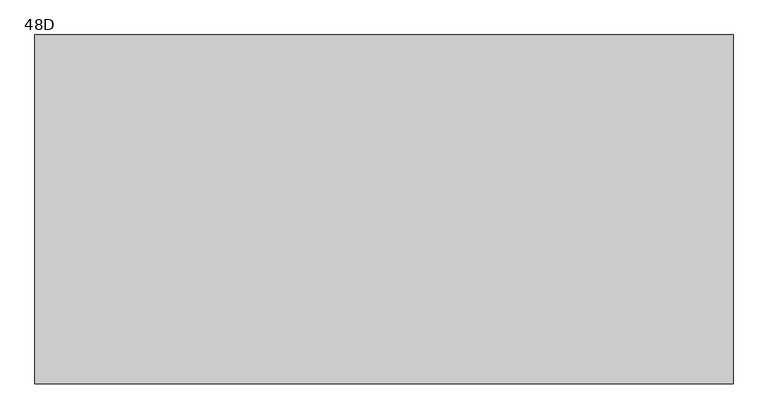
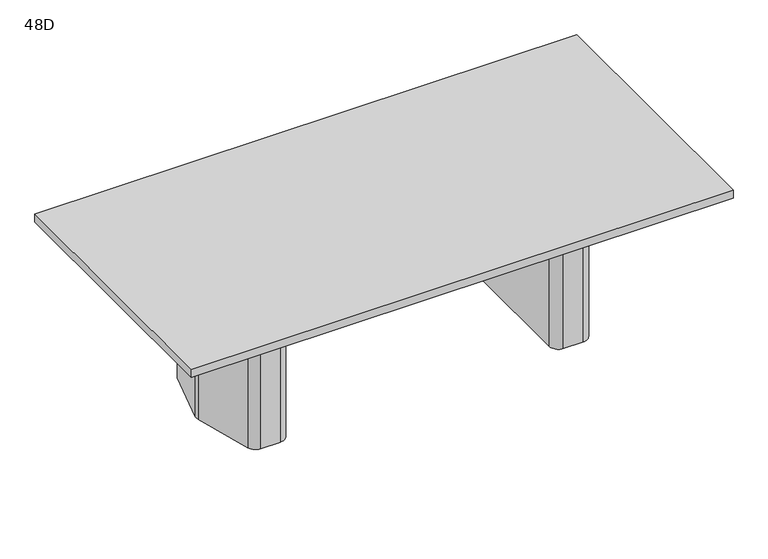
"""IFC4 building model written with IfcOpenShell, lengths in millimetres: furniture geometry, Coalesse_AM_Table_Conference_ETable2_Rectangular_96in_TwoBase : 48D."""

from ifc_helpers import new_model, si_unit, frame, origin, place, context, project, spatial, polyline, circle_curve, outline, extrude, source, transform, mapped, element, save
from ifc_brep_helpers import plane_surface, cylinder_surface, revolved_surface, advanced_brep


def furniture_48d_d70740bd(model_context):
    return source(origin(), model_context, "Body", "SolidModel", [
        advanced_brep(
        [(760.624548, 274.2093613, 698.5), (720.7579246, 304.8, 698.5), (631.825, 304.8, 698.5), (590.55, 263.525, 698.5), (590.55, -263.525, 698.5), (631.825, -304.8, 698.5), (720.7579246, -304.8, 698.5), (760.624548, -274.2093613, 698.5), (831.2503901, -10.6333708, 698.5), (831.2503901, 10.6333708, 698.5), (628.65, -206.375, 698.5), (628.65, 206.375, 698.5), (654.05, 231.775, 698.5), (713.0608422, 231.775, 698.5), (737.595338, 212.9490792, 698.5), (776.2875, 68.54974, 698.5), (776.2875, -68.54974, 698.5), (737.595338, -212.9490792, 698.5), (713.0608422, -231.775, 698.5), (654.05, -231.775, 698.5), (760.624548, 274.2093613, 3.175), (831.2503901, 10.6333708, 3.175), (831.2503901, -10.6333708, 3.175), (760.624548, -274.2093613, 3.175), (720.7579246, -304.8, 3.175), (631.825, -304.8, 3.175), (590.55, -263.525, 3.175), (590.55, 263.525, 3.175), (631.825, 304.8, 3.175), (720.7579246, 304.8, 3.175), (749.8625859, 216.2361187, 3.175), (713.0608422, 244.475, 3.175), (654.05, 244.475, 3.175), (615.95, 206.375, 3.175), (615.95, -206.375, 3.175), (654.05, -244.475, 3.175), (713.0608422, -244.475, 3.175), (749.8625859, -216.2361187, 3.175), (788.9875, -70.2217466, 3.175), (788.9875, 70.2217466, 3.175), (654.05, -231.775, 3.175), (628.65, -206.375, 3.175), (713.0608422, -231.775, 3.175), (737.595338, -212.9490792, 3.175), (776.2875, -68.54974, 3.175), (776.2875, 68.54974, 3.175), (737.595338, 212.9490792, 3.175), (713.0608422, 231.775, 3.175), (654.05, 231.775, 3.175), (628.65, 206.375, 3.175), (749.8625859, 216.2361187, 0.0), (788.9875, 70.2217466, 0.0), (788.9875, -70.2217466, 0.0), (749.8625859, -216.2361187, 0.0), (713.0608422, -244.475, 0.0), (654.05, -244.475, 0.0), (615.95, -206.375, 0.0), (615.95, 206.375, 0.0), (654.05, 244.475, 0.0), (713.0608422, 244.475, 0.0)],
        [
            (0, 1, circle_curve(frame((720.7579246, 263.5270004, 698.5), z_axis=(0.0, 0.0, 1.0), x_axis=(-1.0, 0.0, 0.0)), 41.2729996)),
            (1, 2),
            (2, 3, circle_curve(frame((631.825, 263.525, 698.5), z_axis=(0.0, 0.0, 1.0), x_axis=(-1.0, 0.0, 0.0)), 41.275)),
            (3, 4),
            (4, 5, circle_curve(frame((631.825, -263.525, 698.5), z_axis=(0.0, 0.0, 1.0), x_axis=(-1.0, 0.0, 0.0)), 41.275)),
            (5, 6),
            (6, 7, circle_curve(frame((720.7579246, -263.5270004, 698.5), z_axis=(0.0, 0.0, 1.0), x_axis=(-1.0, 0.0, 0.0)), 41.2729996)),
            (7, 8),
            (8, 9, circle_curve(frame((791.5665979, 0.0, 698.5), z_axis=(0.0, 0.0, 1.0), x_axis=(-1.0, 0.0, 0.0)), 41.0837187)),
            (9, 0),
            (10, 11),
            (11, 12, circle_curve(frame((654.05, 206.375, 698.5), z_axis=(0.0, 0.0, -1.0), x_axis=(-1.0, 0.0, 0.0)), 25.4)),
            (12, 13),
            (13, 14, circle_curve(frame((713.0608422, 206.375, 698.5), z_axis=(0.0, 0.0, -1.0), x_axis=(-1.0, 0.0, 0.0)), 25.4)),
            (14, 15),
            (15, 16),
            (16, 17),
            (17, 18, circle_curve(frame((713.0608422, -206.375, 698.5), z_axis=(0.0, 0.0, -1.0), x_axis=(-1.0, 0.0, 0.0)), 25.4)),
            (18, 19),
            (19, 10, circle_curve(frame((654.05, -206.375, 698.5), z_axis=(0.0, 0.0, -1.0), x_axis=(-1.0, 0.0, 0.0)), 25.4)),
            (20, 21),
            (21, 22, circle_curve(frame((791.5665979, 0.0, 3.175), z_axis=(0.0, 0.0, -1.0), x_axis=(-1.0, 0.0, 0.0)), 41.0837187)),
            (22, 23),
            (23, 24, circle_curve(frame((720.7579246, -263.5270004, 3.175), z_axis=(0.0, 0.0, -1.0), x_axis=(-1.0, 0.0, 0.0)), 41.2729996)),
            (24, 25),
            (25, 26, circle_curve(frame((631.825, -263.525, 3.175), z_axis=(0.0, 0.0, -1.0), x_axis=(-1.0, 0.0, 0.0)), 41.275)),
            (26, 27),
            (27, 28, circle_curve(frame((631.825, 263.525, 3.175), z_axis=(0.0, 0.0, -1.0), x_axis=(-1.0, 0.0, 0.0)), 41.275)),
            (28, 29),
            (29, 20, circle_curve(frame((720.7579246, 263.5270004, 3.175), z_axis=(0.0, 0.0, -1.0), x_axis=(-1.0, 0.0, 0.0)), 41.2729996)),
            (30, 31, circle_curve(frame((713.0608422, 206.375, 3.175), z_axis=(0.0, 0.0, 1.0), x_axis=(-1.0, 0.0, 0.0)), 38.1)),
            (31, 32),
            (32, 33, circle_curve(frame((654.05, 206.375, 3.175), z_axis=(0.0, 0.0, 1.0), x_axis=(-1.0, 0.0, 0.0)), 38.1)),
            (33, 34),
            (34, 35, circle_curve(frame((654.05, -206.375, 3.175), z_axis=(0.0, 0.0, 1.0), x_axis=(-1.0, 0.0, 0.0)), 38.1)),
            (35, 36),
            (36, 37, circle_curve(frame((713.0608422, -206.375, 3.175), z_axis=(0.0, 0.0, 1.0), x_axis=(-1.0, 0.0, 0.0)), 38.1)),
            (37, 38),
            (38, 39),
            (39, 30),
            (9, 21),
            (20, 0),
            (8, 22),
            (7, 23),
            (6, 24),
            (5, 25),
            (4, 26),
            (3, 27),
            (2, 28),
            (1, 29),
            (19, 40),
            (40, 41, circle_curve(frame((654.05, -206.375, 3.175), z_axis=(0.0, 0.0, -1.0), x_axis=(-1.0, 0.0, 0.0)), 25.4)),
            (41, 10),
            (18, 42),
            (42, 40),
            (17, 43),
            (43, 42, circle_curve(frame((713.0608422, -206.375, 3.175), z_axis=(0.0, 0.0, -1.0), x_axis=(-1.0, 0.0, 0.0)), 25.4)),
            (16, 44),
            (44, 43),
            (15, 45),
            (45, 44),
            (14, 46),
            (46, 45),
            (13, 47),
            (47, 46, circle_curve(frame((713.0608422, 206.375, 3.175), z_axis=(0.0, 0.0, -1.0), x_axis=(-1.0, 0.0, 0.0)), 25.4)),
            (12, 48),
            (48, 47),
            (11, 49),
            (49, 48, circle_curve(frame((654.05, 206.375, 3.175), z_axis=(0.0, 0.0, -1.0), x_axis=(-1.0, 0.0, 0.0)), 25.4)),
            (41, 49),
            (50, 51),
            (51, 52),
            (52, 53),
            (53, 54, circle_curve(frame((713.0608422, -206.375, 0.0), z_axis=(0.0, 0.0, -1.0), x_axis=(-1.0, 0.0, 0.0)), 38.1)),
            (54, 55),
            (55, 56, circle_curve(frame((654.05, -206.375, 0.0), z_axis=(0.0, 0.0, -1.0), x_axis=(-1.0, 0.0, 0.0)), 38.1)),
            (56, 57),
            (57, 58, circle_curve(frame((654.05, 206.375, 0.0), z_axis=(0.0, 0.0, -1.0), x_axis=(-1.0, 0.0, 0.0)), 38.1)),
            (58, 59),
            (59, 50, circle_curve(frame((713.0608422, 206.375, 0.0), z_axis=(0.0, 0.0, -1.0), x_axis=(-1.0, 0.0, 0.0)), 38.1)),
            (50, 30),
            (39, 51),
            (38, 52),
            (37, 53),
            (36, 54),
            (35, 55),
            (34, 56),
            (33, 57),
            (32, 58),
            (31, 59),
        ],
        [
            plane_surface(frame((831.2374275, 10.6817473, 698.5), z_axis=(0.0, 0.0, 1.0000000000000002), x_axis=(0.25882201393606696, -0.9659250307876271, 0.0))),
            plane_surface(frame((831.2374275, 10.6817473, 3.175), z_axis=(0.0, 0.0, -1.0000000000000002), x_axis=(-0.25882201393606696, 0.9659250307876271, 0.0))),
            plane_surface(frame((760.624548, 274.2093613, 698.5), z_axis=(0.9659250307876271, 0.25882201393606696, 0.0), x_axis=(0.0, 0.0, -1.0))),
            cylinder_surface(frame((791.5665979, 0.0, 3.175), z_axis=(0.0, 0.0, 1.0), x_axis=(-1.0, 0.0, 0.0)), 41.0837187),
            plane_surface(frame((831.2503901, -10.6333708, 698.5), z_axis=(0.9659250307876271, -0.2588220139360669, 0.0), x_axis=(0.0, 0.0, -1.0))),
            cylinder_surface(frame((720.7579246, -263.5270004, 3.175), z_axis=(0.0, 0.0, 1.0), x_axis=(-1.0, 0.0, 0.0)), 41.2729996),
            plane_surface(frame((720.7579246, -304.8, 698.5), z_axis=(0.0, -1.0, 0.0), x_axis=(0.0, 0.0, -1.0))),
            cylinder_surface(frame((631.825, -263.525, 3.175), z_axis=(0.0, 0.0, 1.0), x_axis=(-1.0, 0.0, 0.0)), 41.275),
            plane_surface(frame((590.55, -263.525, 698.5), z_axis=(-1.0, 0.0, 0.0), x_axis=(0.0, 0.0, -1.0))),
            cylinder_surface(frame((631.825, 263.525, 3.175), z_axis=(0.0, 0.0, 1.0), x_axis=(-1.0, 0.0, 0.0)), 41.275),
            plane_surface(frame((631.825, 304.8, 698.5), z_axis=(0.0, 1.0, 0.0), x_axis=(0.0, 0.0, -1.0))),
            cylinder_surface(frame((720.7579246, 263.5270004, 3.175), z_axis=(0.0, 0.0, 1.0), x_axis=(-1.0, 0.0, 0.0)), 41.2729996),
            revolved_surface(polyline([(628.65, -206.375, 3.175), (628.65, -206.375, 698.5)]), (654.05, -206.375, 0.0), (0.0, 0.0, -1.0)),
            plane_surface(frame((654.05, -231.775, 698.5), z_axis=(0.0, 1.0, 0.0), x_axis=(0.0, 0.0, -1.0))),
            revolved_surface(polyline([(687.6608422, -206.375, 3.175), (687.6608422, -206.375, 698.5)]), (713.0608422, -206.375, 0.0), (0.0, 0.0, -1.0)),
            plane_surface(frame((737.595338, -212.9490792, 698.5), z_axis=(-0.9659250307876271, 0.2588220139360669, 0.0), x_axis=(0.0, 0.0, -1.0))),
            plane_surface(frame((776.2875, -68.54974, 698.5), z_axis=(-1.0, 0.0, 0.0), x_axis=(0.0, 0.0, -1.0))),
            plane_surface(frame((776.2875, 68.54974, 698.5), z_axis=(-0.9659250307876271, -0.25882201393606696, 0.0), x_axis=(0.0, 0.0, -1.0))),
            revolved_surface(polyline([(687.6608422, 206.375, 3.175), (687.6608422, 206.375, 698.5)]), (713.0608422, 206.375, 0.0), (0.0, 0.0, -1.0)),
            plane_surface(frame((713.0608422, 231.775, 698.5), z_axis=(0.0, -1.0, 0.0), x_axis=(0.0, 0.0, -1.0))),
            revolved_surface(polyline([(628.65, 206.375, 3.175), (628.65, 206.375, 698.5)]), (654.05, 206.375, 0.0), (0.0, 0.0, -1.0)),
            plane_surface(frame((628.65, 206.375, 698.5), z_axis=(1.0, 0.0, 0.0), x_axis=(0.0, 0.0, -1.0))),
            plane_surface(frame((788.5547479, 71.8367796, 3.175), z_axis=(0.0, 0.0, 1.0), x_axis=(0.25882201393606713, -0.965925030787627, 0.0))),
            plane_surface(frame((788.5547479, 71.8367796, 0.0), z_axis=(0.0, 0.0, -1.0), x_axis=(-0.25882201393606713, 0.965925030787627, 0.0))),
            plane_surface(frame((749.8625859, 216.2361187, 3.175), z_axis=(0.965925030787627, 0.25882201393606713, 0.0), x_axis=(0.0, 0.0, -1.0))),
            plane_surface(frame((788.9875, 70.2217466, 3.175), z_axis=(1.0, 0.0, 0.0), x_axis=(0.0, 0.0, -1.0))),
            plane_surface(frame((788.9875, -70.2217466, 3.175), z_axis=(0.9659250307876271, -0.2588220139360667, 0.0), x_axis=(0.0, 0.0, -1.0))),
            cylinder_surface(frame((713.0608422, -206.375, 0.0), z_axis=(0.0, 0.0, 1.0), x_axis=(-1.0, 0.0, 0.0)), 38.1),
            plane_surface(frame((713.0608422, -244.475, 3.175), z_axis=(0.0, -1.0, 0.0), x_axis=(0.0, 0.0, -1.0))),
            cylinder_surface(frame((654.05, -206.375, 0.0), z_axis=(0.0, 0.0, 1.0), x_axis=(-1.0, 0.0, 0.0)), 38.1),
            plane_surface(frame((615.95, -206.375, 3.175), z_axis=(-1.0, 0.0, 0.0), x_axis=(0.0, 0.0, -1.0))),
            cylinder_surface(frame((654.05, 206.375, 0.0), z_axis=(0.0, 0.0, 1.0), x_axis=(-1.0, 0.0, 0.0)), 38.1),
            plane_surface(frame((654.05, 244.475, 3.175), z_axis=(0.0, 1.0, 0.0), x_axis=(0.0, 0.0, -1.0))),
            cylinder_surface(frame((713.0608422, 206.375, 0.0), z_axis=(0.0, 0.0, 1.0), x_axis=(-1.0, 0.0, 0.0)), 38.1),
        ],
        [
            (0, [[1, 2, 3, 4, 5, 6, 7, 8, 9, 10], [11, 12, 13, 14, 15, 16, 17, 18, 19, 20]]),
            (1, [[21, 22, 23, 24, 25, 26, 27, 28, 29, 30], [31, 32, 33, 34, 35, 36, 37, 38, 39, 40]]),
            (2, [[41, -21, 42, -10]]),
            (3, [[43, -22, -41, -9]]),
            (4, [[44, -23, -43, -8]]),
            (5, [[45, -24, -44, -7]]),
            (6, [[46, -25, -45, -6]]),
            (7, [[47, -26, -46, -5]]),
            (8, [[48, -27, -47, -4]]),
            (9, [[49, -28, -48, -3]]),
            (10, [[50, -29, -49, -2]]),
            (11, [[-42, -30, -50, -1]]),
            (12, [[51, 52, 53, -20]]),
            (13, [[54, 55, -51, -19]]),
            (14, [[56, 57, -54, -18]]),
            (15, [[58, 59, -56, -17]]),
            (16, [[60, 61, -58, -16]]),
            (17, [[62, 63, -60, -15]]),
            (18, [[64, 65, -62, -14]]),
            (19, [[66, 67, -64, -13]]),
            (20, [[68, 69, -66, -12]]),
            (21, [[-53, 70, -68, -11]]),
            (22, [[-55, -57, -59, -61, -63, -65, -67, -69, -70, -52]]),
            (23, [[71, 72, 73, 74, 75, 76, 77, 78, 79, 80]]),
            (24, [[81, -40, 82, -71]]),
            (25, [[-82, -39, 83, -72]]),
            (26, [[-83, -38, 84, -73]]),
            (27, [[-84, -37, 85, -74]]),
            (28, [[-85, -36, 86, -75]]),
            (29, [[-86, -35, 87, -76]]),
            (30, [[-87, -34, 88, -77]]),
            (31, [[-88, -33, 89, -78]]),
            (32, [[-89, -32, 90, -79]]),
            (33, [[-90, -31, -81, -80]]),
        ],
    ),
        advanced_brep(
        [(-771.737048, 274.2093613, 698.5), (-842.3628901, 10.6333708, 698.5), (-842.3628901, -10.6333708, 698.5), (-771.737048, -274.2093613, 698.5), (-731.8704246, -304.8, 698.5), (-642.9375, -304.8, 698.5), (-601.6625, -263.525, 698.5), (-601.6625, 263.525, 698.5), (-642.9375, 304.8, 698.5), (-731.8704246, 304.8, 698.5), (-639.7625, -206.375, 698.5), (-665.1625, -231.775, 698.5), (-724.1733422, -231.775, 698.5), (-748.707838, -212.9490792, 698.5), (-787.4, -68.54974, 698.5), (-787.4, 68.54974, 698.5), (-748.707838, 212.9490792, 698.5), (-724.1733422, 231.775, 698.5), (-665.1625, 231.775, 698.5), (-639.7625, 206.375, 698.5), (-771.737048, 274.2093613, 3.175), (-731.8704246, 304.8, 3.175), (-642.9375, 304.8, 3.175), (-601.6625, 263.525, 3.175), (-601.6625, -263.525, 3.175), (-642.9375, -304.8, 3.175), (-731.8704246, -304.8, 3.175), (-771.737048, -274.2093613, 3.175), (-842.3628901, -10.6333708, 3.175), (-842.3628901, 10.6333708, 3.175), (-760.9750859, 216.2361187, 3.175), (-800.1, 70.2217466, 3.175), (-800.1, -70.2217466, 3.175), (-760.9750859, -216.2361187, 3.175), (-724.1733422, -244.475, 3.175), (-665.1625, -244.475, 3.175), (-627.0625, -206.375, 3.175), (-627.0625, 206.375, 3.175), (-665.1625, 244.475, 3.175), (-724.1733422, 244.475, 3.175), (-639.7625, -206.375, 3.175), (-665.1625, -231.775, 3.175), (-724.1733422, -231.775, 3.175), (-748.707838, -212.9490792, 3.175), (-787.4, -68.54974, 3.175), (-787.4, 68.54974, 3.175), (-748.707838, 212.9490792, 3.175), (-724.1733422, 231.775, 3.175), (-665.1625, 231.775, 3.175), (-639.7625, 206.375, 3.175), (-760.9750859, 216.2361187, 0.0), (-724.1733422, 244.475, 0.0), (-665.1625, 244.475, 0.0), (-627.0625, 206.375, 0.0), (-627.0625, -206.375, 0.0), (-665.1625, -244.475, 0.0), (-724.1733422, -244.475, 0.0), (-760.9750859, -216.2361187, 0.0), (-800.1, -70.2217466, 0.0), (-800.1, 70.2217466, 0.0)],
        [
            (0, 1),
            (1, 2, circle_curve(frame((-802.6790979, 0.0, 698.5), z_axis=(0.0, 0.0, 1.0), x_axis=(1.0, 0.0, 0.0)), 41.0837187)),
            (2, 3),
            (3, 4, circle_curve(frame((-731.8704246, -263.5270004, 698.5), z_axis=(0.0, 0.0, 1.0), x_axis=(1.0, 0.0, 0.0)), 41.2729996)),
            (4, 5),
            (5, 6, circle_curve(frame((-642.9375, -263.525, 698.5), z_axis=(0.0, 0.0, 1.0), x_axis=(1.0, 0.0, 0.0)), 41.275)),
            (6, 7),
            (7, 8, circle_curve(frame((-642.9375, 263.525, 698.5), z_axis=(0.0, 0.0, 1.0), x_axis=(1.0, 0.0, 0.0)), 41.275)),
            (8, 9),
            (9, 0, circle_curve(frame((-731.8704246, 263.5270004, 698.5), z_axis=(0.0, 0.0, 1.0), x_axis=(1.0, 0.0, 0.0)), 41.2729996)),
            (10, 11, circle_curve(frame((-665.1625, -206.375, 698.5), z_axis=(0.0, 0.0, -1.0), x_axis=(1.0, 0.0, 0.0)), 25.4)),
            (11, 12),
            (12, 13, circle_curve(frame((-724.1733422, -206.375, 698.5), z_axis=(0.0, 0.0, -1.0), x_axis=(1.0, 0.0, 0.0)), 25.4)),
            (13, 14),
            (14, 15),
            (15, 16),
            (16, 17, circle_curve(frame((-724.1733422, 206.375, 698.5), z_axis=(0.0, 0.0, -1.0), x_axis=(1.0, 0.0, 0.0)), 25.4)),
            (17, 18),
            (18, 19, circle_curve(frame((-665.1625, 206.375, 698.5), z_axis=(0.0, 0.0, -1.0), x_axis=(1.0, 0.0, 0.0)), 25.4)),
            (19, 10),
            (20, 21, circle_curve(frame((-731.8704246, 263.5270004, 3.175), z_axis=(0.0, 0.0, -1.0), x_axis=(1.0, 0.0, 0.0)), 41.2729996)),
            (21, 22),
            (22, 23, circle_curve(frame((-642.9375, 263.525, 3.175), z_axis=(0.0, 0.0, -1.0), x_axis=(1.0, 0.0, 0.0)), 41.275)),
            (23, 24),
            (24, 25, circle_curve(frame((-642.9375, -263.525, 3.175), z_axis=(0.0, 0.0, -1.0), x_axis=(1.0, 0.0, 0.0)), 41.275)),
            (25, 26),
            (26, 27, circle_curve(frame((-731.8704246, -263.5270004, 3.175), z_axis=(0.0, 0.0, -1.0), x_axis=(1.0, 0.0, 0.0)), 41.2729996)),
            (27, 28),
            (28, 29, circle_curve(frame((-802.6790979, 0.0, 3.175), z_axis=(0.0, 0.0, -1.0), x_axis=(1.0, 0.0, 0.0)), 41.0837187)),
            (29, 20),
            (30, 31),
            (31, 32),
            (32, 33),
            (33, 34, circle_curve(frame((-724.1733422, -206.375, 3.175), z_axis=(0.0, 0.0, 1.0), x_axis=(1.0, 0.0, 0.0)), 38.1)),
            (34, 35),
            (35, 36, circle_curve(frame((-665.1625, -206.375, 3.175), z_axis=(0.0, 0.0, 1.0), x_axis=(1.0, 0.0, 0.0)), 38.1)),
            (36, 37),
            (37, 38, circle_curve(frame((-665.1625, 206.375, 3.175), z_axis=(0.0, 0.0, 1.0), x_axis=(1.0, 0.0, 0.0)), 38.1)),
            (38, 39),
            (39, 30, circle_curve(frame((-724.1733422, 206.375, 3.175), z_axis=(0.0, 0.0, 1.0), x_axis=(1.0, 0.0, 0.0)), 38.1)),
            (0, 20),
            (29, 1),
            (28, 2),
            (27, 3),
            (26, 4),
            (25, 5),
            (24, 6),
            (23, 7),
            (22, 8),
            (21, 9),
            (10, 40),
            (40, 41, circle_curve(frame((-665.1625, -206.375, 3.175), z_axis=(0.0, 0.0, -1.0), x_axis=(1.0, 0.0, 0.0)), 25.4)),
            (41, 11),
            (41, 42),
            (42, 12),
            (42, 43, circle_curve(frame((-724.1733422, -206.375, 3.175), z_axis=(0.0, 0.0, -1.0), x_axis=(1.0, 0.0, 0.0)), 25.4)),
            (43, 13),
            (43, 44),
            (44, 14),
            (44, 45),
            (45, 15),
            (45, 46),
            (46, 16),
            (46, 47, circle_curve(frame((-724.1733422, 206.375, 3.175), z_axis=(0.0, 0.0, -1.0), x_axis=(1.0, 0.0, 0.0)), 25.4)),
            (47, 17),
            (47, 48),
            (48, 18),
            (48, 49, circle_curve(frame((-665.1625, 206.375, 3.175), z_axis=(0.0, 0.0, -1.0), x_axis=(1.0, 0.0, 0.0)), 25.4)),
            (49, 19),
            (49, 40),
            (50, 51, circle_curve(frame((-724.1733422, 206.375, 0.0), z_axis=(0.0, 0.0, -1.0), x_axis=(1.0, 0.0, 0.0)), 38.1)),
            (51, 52),
            (52, 53, circle_curve(frame((-665.1625, 206.375, 0.0), z_axis=(0.0, 0.0, -1.0), x_axis=(1.0, 0.0, 0.0)), 38.1)),
            (53, 54),
            (54, 55, circle_curve(frame((-665.1625, -206.375, 0.0), z_axis=(0.0, 0.0, -1.0), x_axis=(1.0, 0.0, 0.0)), 38.1)),
            (55, 56),
            (56, 57, circle_curve(frame((-724.1733422, -206.375, 0.0), z_axis=(0.0, 0.0, -1.0), x_axis=(1.0, 0.0, 0.0)), 38.1)),
            (57, 58),
            (58, 59),
            (59, 50),
            (59, 31),
            (30, 50),
            (58, 32),
            (57, 33),
            (56, 34),
            (55, 35),
            (54, 36),
            (53, 37),
            (52, 38),
            (51, 39),
        ],
        [
            plane_surface(frame((-842.3499275, 10.6817473, 698.5), z_axis=(0.0, 0.0, 1.0000000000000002), x_axis=(-0.25882201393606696, -0.9659250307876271, 0.0))),
            plane_surface(frame((-842.3499275, 10.6817473, 3.175), z_axis=(0.0, 0.0, -1.0000000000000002), x_axis=(0.25882201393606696, 0.9659250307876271, 0.0))),
            plane_surface(frame((-771.737048, 274.2093613, 698.5), z_axis=(-0.9659250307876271, 0.25882201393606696, 0.0), x_axis=(0.0, 0.0, -1.0))),
            cylinder_surface(frame((-802.6790979, 0.0, 3.175), z_axis=(0.0, 0.0, 1.0), x_axis=(1.0, 0.0, 0.0)), 41.0837187),
            plane_surface(frame((-842.3628901, -10.6333708, 698.5), z_axis=(-0.9659250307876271, -0.2588220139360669, 0.0), x_axis=(0.0, 0.0, -1.0))),
            cylinder_surface(frame((-731.8704246, -263.5270004, 3.175), z_axis=(0.0, 0.0, 1.0), x_axis=(1.0, 0.0, 0.0)), 41.2729996),
            plane_surface(frame((-731.8704246, -304.8, 698.5), z_axis=(0.0, -1.0, 0.0), x_axis=(0.0, 0.0, -1.0))),
            cylinder_surface(frame((-642.9375, -263.525, 3.175), z_axis=(0.0, 0.0, 1.0), x_axis=(1.0, 0.0, 0.0)), 41.275),
            plane_surface(frame((-601.6625, -263.525, 698.5), z_axis=(1.0, 0.0, 0.0), x_axis=(0.0, 0.0, -1.0))),
            cylinder_surface(frame((-642.9375, 263.525, 3.175), z_axis=(0.0, 0.0, 1.0), x_axis=(1.0, 0.0, 0.0)), 41.275),
            plane_surface(frame((-642.9375, 304.8, 698.5), z_axis=(0.0, 1.0, 0.0), x_axis=(0.0, 0.0, -1.0))),
            cylinder_surface(frame((-731.8704246, 263.5270004, 3.175), z_axis=(0.0, 0.0, 1.0), x_axis=(1.0, 0.0, 0.0)), 41.2729996),
            revolved_surface(polyline([(-639.7625, -206.375, 3.175), (-639.7625, -206.375, 698.5)]), (-665.1625, -206.375, 0.0), (0.0, 0.0, -1.0)),
            plane_surface(frame((-665.1625, -231.775, 698.5), z_axis=(0.0, 1.0, 0.0), x_axis=(0.0, 0.0, -1.0))),
            revolved_surface(polyline([(-698.7733422, -206.375, 3.175), (-698.7733422, -206.375, 698.5)]), (-724.1733422, -206.375, 0.0), (0.0, 0.0, -1.0)),
            plane_surface(frame((-748.707838, -212.9490792, 698.5), z_axis=(0.9659250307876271, 0.2588220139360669, 0.0), x_axis=(0.0, 0.0, -1.0))),
            plane_surface(frame((-787.4, -68.54974, 698.5), z_axis=(1.0, 0.0, 0.0), x_axis=(0.0, 0.0, -1.0))),
            plane_surface(frame((-787.4, 68.54974, 698.5), z_axis=(0.9659250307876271, -0.25882201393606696, 0.0), x_axis=(0.0, 0.0, -1.0))),
            revolved_surface(polyline([(-698.7733422, 206.375, 3.175), (-698.7733422, 206.375, 698.5)]), (-724.1733422, 206.375, 0.0), (0.0, 0.0, -1.0)),
            plane_surface(frame((-724.1733422, 231.775, 698.5), z_axis=(0.0, -1.0, 0.0), x_axis=(0.0, 0.0, -1.0))),
            revolved_surface(polyline([(-639.7625, 206.375, 3.175), (-639.7625, 206.375, 698.5)]), (-665.1625, 206.375, 0.0), (0.0, 0.0, -1.0)),
            plane_surface(frame((-639.7625, 206.375, 698.5), z_axis=(-1.0, 0.0, 0.0), x_axis=(0.0, 0.0, -1.0))),
            plane_surface(frame((-799.6672479, 71.8367796, 3.175), z_axis=(0.0, 0.0, 1.0), x_axis=(-0.25882201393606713, -0.965925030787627, 0.0))),
            plane_surface(frame((-799.6672479, 71.8367796, 0.0), z_axis=(0.0, 0.0, -1.0), x_axis=(0.25882201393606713, 0.965925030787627, 0.0))),
            plane_surface(frame((-760.9750859, 216.2361187, 3.175), z_axis=(-0.965925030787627, 0.25882201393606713, 0.0), x_axis=(0.0, 0.0, -1.0))),
            plane_surface(frame((-800.1, 70.2217466, 3.175), z_axis=(-1.0, 0.0, 0.0), x_axis=(0.0, 0.0, -1.0))),
            plane_surface(frame((-800.1, -70.2217466, 3.175), z_axis=(-0.9659250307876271, -0.2588220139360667, 0.0), x_axis=(0.0, 0.0, -1.0))),
            cylinder_surface(frame((-724.1733422, -206.375, 0.0), z_axis=(0.0, 0.0, 1.0), x_axis=(1.0, 0.0, 0.0)), 38.1),
            plane_surface(frame((-724.1733422, -244.475, 3.175), z_axis=(0.0, -1.0, 0.0), x_axis=(0.0, 0.0, -1.0))),
            cylinder_surface(frame((-665.1625, -206.375, 0.0), z_axis=(0.0, 0.0, 1.0), x_axis=(1.0, 0.0, 0.0)), 38.1),
            plane_surface(frame((-627.0625, -206.375, 3.175), z_axis=(1.0, 0.0, 0.0), x_axis=(0.0, 0.0, -1.0))),
            cylinder_surface(frame((-665.1625, 206.375, 0.0), z_axis=(0.0, 0.0, 1.0), x_axis=(1.0, 0.0, 0.0)), 38.1),
            plane_surface(frame((-665.1625, 244.475, 3.175), z_axis=(0.0, 1.0, 0.0), x_axis=(0.0, 0.0, -1.0))),
            cylinder_surface(frame((-724.1733422, 206.375, 0.0), z_axis=(0.0, 0.0, 1.0), x_axis=(1.0, 0.0, 0.0)), 38.1),
        ],
        [
            (0, [[1, 2, 3, 4, 5, 6, 7, 8, 9, 10], [11, 12, 13, 14, 15, 16, 17, 18, 19, 20]]),
            (1, [[21, 22, 23, 24, 25, 26, 27, 28, 29, 30], [31, 32, 33, 34, 35, 36, 37, 38, 39, 40]]),
            (2, [[-1, 41, -30, 42]]),
            (3, [[-2, -42, -29, 43]]),
            (4, [[-3, -43, -28, 44]]),
            (5, [[-4, -44, -27, 45]]),
            (6, [[-5, -45, -26, 46]]),
            (7, [[-6, -46, -25, 47]]),
            (8, [[-7, -47, -24, 48]]),
            (9, [[-8, -48, -23, 49]]),
            (10, [[-9, -49, -22, 50]]),
            (11, [[-10, -50, -21, -41]]),
            (12, [[-11, 51, 52, 53]]),
            (13, [[-12, -53, 54, 55]]),
            (14, [[-13, -55, 56, 57]]),
            (15, [[-14, -57, 58, 59]]),
            (16, [[-15, -59, 60, 61]]),
            (17, [[-16, -61, 62, 63]]),
            (18, [[-17, -63, 64, 65]]),
            (19, [[-18, -65, 66, 67]]),
            (20, [[-19, -67, 68, 69]]),
            (21, [[-20, -69, 70, -51]]),
            (22, [[-52, -70, -68, -66, -64, -62, -60, -58, -56, -54]]),
            (23, [[71, 72, 73, 74, 75, 76, 77, 78, 79, 80]]),
            (24, [[-80, 81, -31, 82]]),
            (25, [[-79, 83, -32, -81]]),
            (26, [[-78, 84, -33, -83]]),
            (27, [[-77, 85, -34, -84]]),
            (28, [[-76, 86, -35, -85]]),
            (29, [[-75, 87, -36, -86]]),
            (30, [[-74, 88, -37, -87]]),
            (31, [[-73, 89, -38, -88]]),
            (32, [[-72, 90, -39, -89]]),
            (33, [[-71, -82, -40, -90]]),
        ],
    ),
        extrude(outline(polyline([(96.8375, 698.5), (103.1875, 698.5), (103.1875, 476.25), (-103.1875, 476.25), (-103.1875, 698.5), (-96.8375, 698.5), (-96.8375, 482.6), (96.8375, 482.6), (96.8375, 698.5)])), frame((-601.6625, 0.0, 0.0), z_axis=(1.0, 0.0, 0.0), x_axis=(0.0, 1.0, 0.0)), (0.0, 0.0, 1.0), 1192.2125),
        extrude(outline(polyline([(1219.2, 609.6), (1219.2, -609.6), (-1219.2, -609.6), (-1219.2, 609.6), (1219.2, 609.6)])), frame((0.0, 0.0, 698.5), z_axis=(0.0, 0.0, 1.0), x_axis=(1.0, 0.0, 0.0)), (0.0, 0.0, 1.0), 38.1),
    ])


if __name__ == "__main__":
    model = new_model("IFC4")
    model_context = context("Model", 3, world=origin())
    ifc_project = project(units=[si_unit("LENGTHUNIT", "METRE", prefix="MILLI")], contexts=[model_context])
    site = spatial("IfcSite", under=ifc_project)
    building = spatial("IfcBuilding", under=site)
    placement = place(None, origin())
    furniture_48d_shape = furniture_48d_d70740bd(model_context)
    element("IfcFurniture", 1, ObjectType="Coalesse_AM_Table_Conference_ETable2_Rectangular_96in_TwoBase : 48D", at=placement, inside=building, context=model_context, shape_type="MappedRepresentation", body=[
        mapped(furniture_48d_shape, transform((0.0, 0.0, 0.0), x_axis=(1.0, 0.0, 0.0), y_axis=(0.0, 1.0, 0.0), z_axis=(0.0, 0.0, 1.0))),
    ])
    save(model, "model.ifc")
